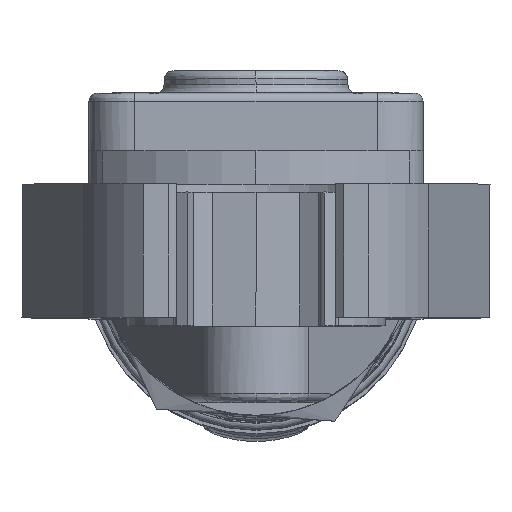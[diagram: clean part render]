
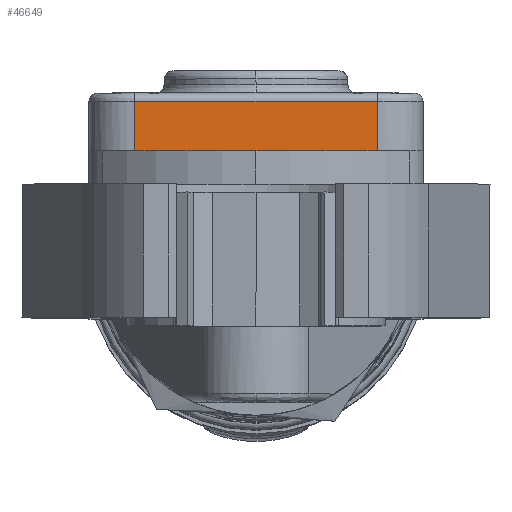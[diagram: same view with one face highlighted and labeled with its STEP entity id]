
A CAD part, top view. The second image highlights one B-rep face of the part: STEP entity #46649.
In plain terms, the highlighted planar face has unit normal (0, 0, 1).
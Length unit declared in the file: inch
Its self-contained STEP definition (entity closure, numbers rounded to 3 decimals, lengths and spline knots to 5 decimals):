
#3579 = LINE ( 'NONE', #19144, #61237 ) ;
#4881 = VECTOR ( 'NONE', #60528, 39.37008 ) ;
#5192 = CARTESIAN_POINT ( 'NONE',  ( -0.57087, 0.50121, 5.38024 ) ) ;
#6184 = EDGE_CURVE ( 'NONE', #50185, #27161, #57186, .T. ) ;
#7088 = DIRECTION ( 'NONE',  ( 0., 0., -1. ) ) ;
#7674 = DIRECTION ( 'NONE',  ( 0., -1., 0. ) ) ;
#8183 = ORIENTED_EDGE ( 'NONE', *, *, #6184, .F. ) ;
#8517 = VERTEX_POINT ( 'NONE', #14609 ) ;
#12152 = VERTEX_POINT ( 'NONE', #30895 ) ;
#13115 = ORIENTED_EDGE ( 'NONE', *, *, #45935, .F. ) ;
#14461 = CARTESIAN_POINT ( 'NONE',  ( 0.57087, 0.50121, 5.38024 ) ) ;
#14609 = CARTESIAN_POINT ( 'NONE',  ( -0.57087, 0.78547, 5.38024 ) ) ;
#16075 = EDGE_LOOP ( 'NONE', ( #13115, #29039, #8183, #20608 ) ) ;
#19013 = DIRECTION ( 'NONE',  ( -1., 0., 0. ) ) ;
#19144 = CARTESIAN_POINT ( 'NONE',  ( 0.57087, 0.82484, 5.38024 ) ) ;
#19720 = EDGE_CURVE ( 'NONE', #12152, #50185, #3579, .T. ) ;
#20608 = ORIENTED_EDGE ( 'NONE', *, *, #19720, .F. ) ;
#20857 = CARTESIAN_POINT ( 'NONE',  ( 0.57087, 0.82484, 5.38024 ) ) ;
#22323 = CARTESIAN_POINT ( 'NONE',  ( 0.57087, 0.78547, 5.38024 ) ) ;
#23581 = VECTOR ( 'NONE', #58108, 39.37008 ) ;
#27161 = VERTEX_POINT ( 'NONE', #5192 ) ;
#29039 = ORIENTED_EDGE ( 'NONE', *, *, #51565, .F. ) ;
#30895 = CARTESIAN_POINT ( 'NONE',  ( 0.57087, 0.78547, 5.38024 ) ) ;
#38094 = CARTESIAN_POINT ( 'NONE',  ( -0.57087, 0.82484, 5.38024 ) ) ;
#38219 = DIRECTION ( 'NONE',  ( 0., -1., 0. ) ) ;
#41463 = VECTOR ( 'NONE', #19013, 39.37008 ) ;
#44623 = PLANE ( 'NONE',  #54988 ) ;
#45935 = EDGE_CURVE ( 'NONE', #8517, #12152, #55488, .T. ) ;
#46649 = ADVANCED_FACE ( 'NONE', ( #49002 ), #44623, .F. ) ;
#47491 = LINE ( 'NONE', #38094, #23581 ) ;
#49002 = FACE_OUTER_BOUND ( 'NONE', #16075, .T. ) ;
#50185 = VERTEX_POINT ( 'NONE', #14461 ) ;
#51565 = EDGE_CURVE ( 'NONE', #27161, #8517, #47491, .T. ) ;
#54988 = AXIS2_PLACEMENT_3D ( 'NONE', #20857, #7088, #7674 ) ;
#55488 = LINE ( 'NONE', #22323, #4881 ) ;
#57186 = LINE ( 'NONE', #61931, #41463 ) ;
#58108 = DIRECTION ( 'NONE',  ( 0., 1., 0. ) ) ;
#60528 = DIRECTION ( 'NONE',  ( 1., 0., 0. ) ) ;
#61237 = VECTOR ( 'NONE', #38219, 39.37008 ) ;
#61931 = CARTESIAN_POINT ( 'NONE',  ( 0.57087, 0.50121, 5.38024 ) ) ;
